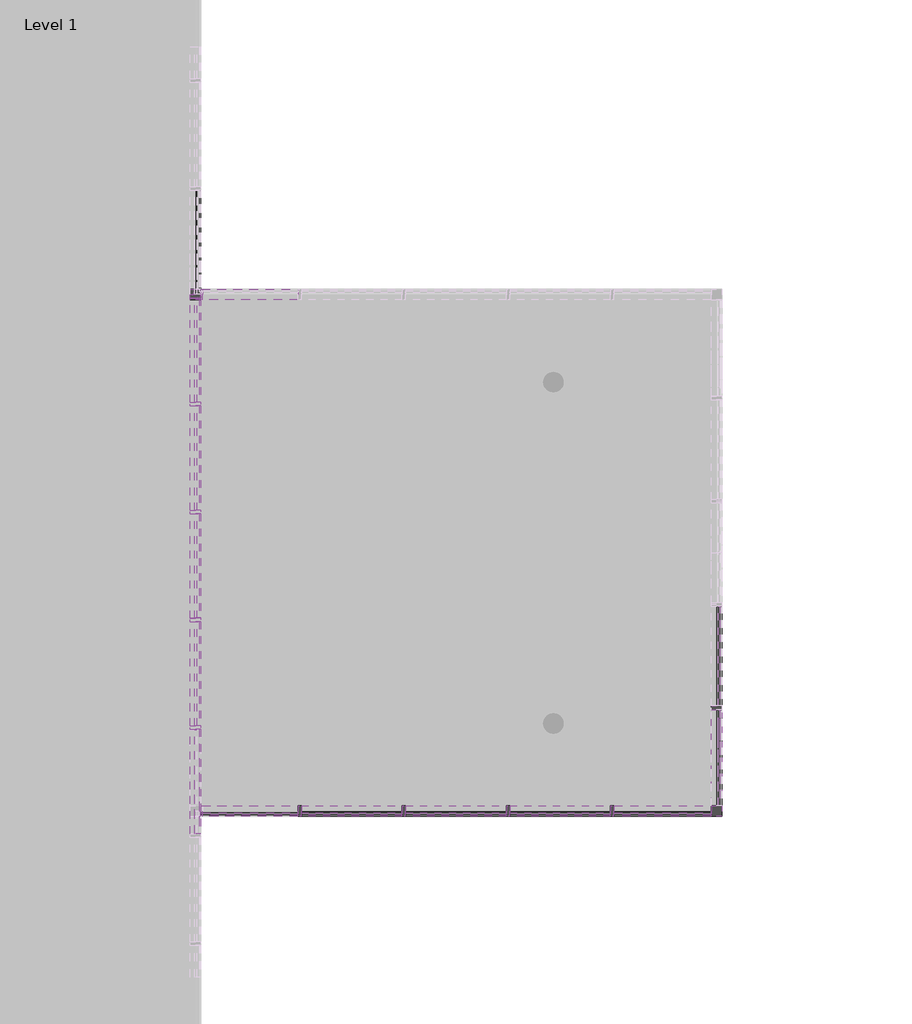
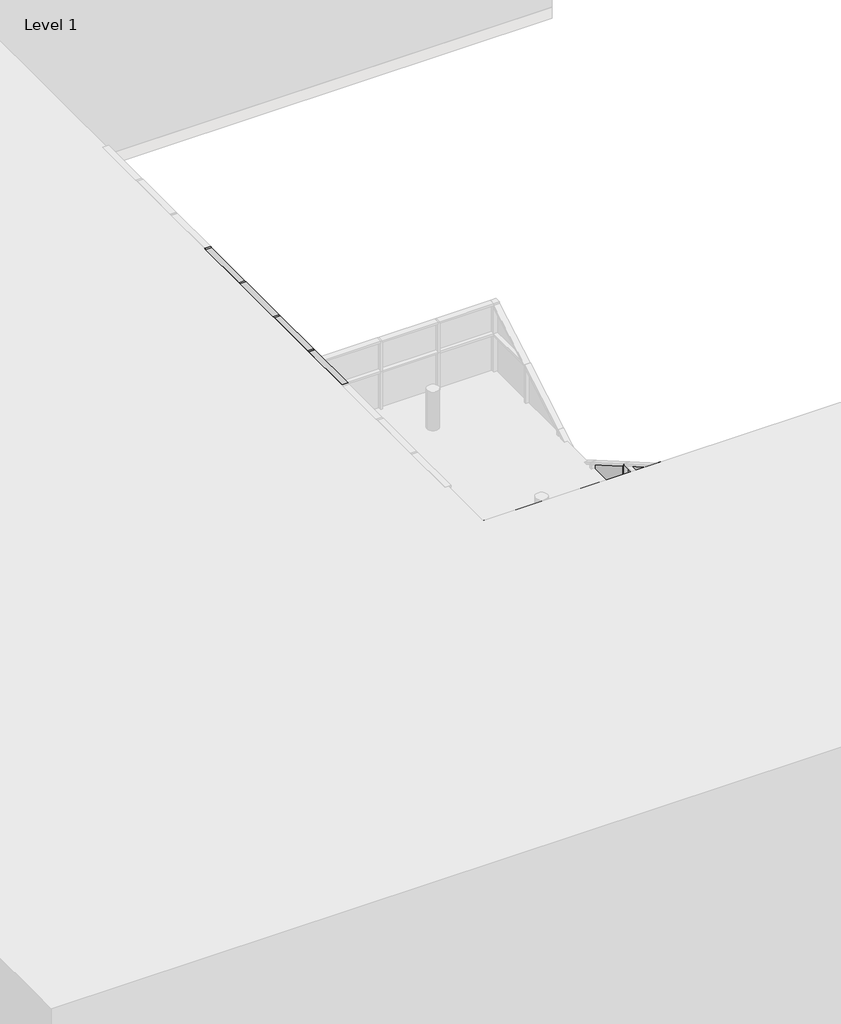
# One storey, part 3 of 27: 85 members, 38 plates.
"""IFC4 building model written with IfcOpenShell, lengths in millimetres."""

from ifc_helpers import new_model, si_unit, origin, place, context, project, spatial, transform, mapped, element, save
from components import quad_corner_mullion_quad_mullion_1_84add008, quad_corner_mullion_quad_mullion_1_33c9fb38, quad_corner_mullion_quad_mullion_1_4b298a92, quad_corner_mullion_quad_mullion_1_81362c20, quad_corner_mullion_quad_mullion_1_bceed214, quad_corner_mullion_quad_mullion_1_e3694288, rectangular_mullion_50mm_x_150mm_70cae3e1, rectangular_mullion_50mm_x_150mm_5226f6e8, rectangular_mullion_50mm_x_150mm_c839a2ff, rectangular_mullion_50mm_x_150mm_4fd86324, rectangular_mullion_50mm_x_150mm_6edb5cd3, rectangular_mullion_50mm_x_150mm_015f125c, rectangular_mullion_50mm_x_150mm_3bb547da, rectangular_mullion_50mm_x_150mm_487a502d, rectangular_mullion_50mm_x_150mm_33c77db3, rectangular_mullion_50mm_x_150mm_4273df98, rectangular_mullion_50mm_x_150mm_62159ae8, rectangular_mullion_50mm_x_150mm_bbc1c4ea, rectangular_mullion_50mm_x_150mm_84717ec5, rectangular_mullion_50mm_x_150mm_36202a7c, rectangular_mullion_50mm_x_150mm_1f94af64, rectangular_mullion_50mm_x_150mm_2daa7a2f, rectangular_mullion_50mm_x_150mm_ba376b5f, rectangular_mullion_50mm_x_150mm_79d6063e, rectangular_mullion_50mm_x_150mm_cb05066b, rectangular_mullion_50mm_x_150mm_f059afb6, system_panel_glazed_77cafc2b, system_panel_glazed_ed797616, system_panel_glazed_95eec517, system_panel_glazed_cdc57668, system_panel_glazed_979b1f5c, system_panel_glazed_f33d80e9, system_panel_glazed_bda8db77, system_panel_glazed_ac2502f9, system_panel_glazed_372dedf1, system_panel_glazed_d933175f, system_panel_glazed_53162424, system_panel_glazed_af97afc8, system_panel_glazed_789d0833, system_panel_glazed_280cad58, system_panel_solid_7338a288, system_panel_solid_0b170172, system_panel_solid_f97cb735

model = new_model("IFC4")

# Units and contexts
model_context = context("Model", 3, world=origin())
ifc_project = project(units=[si_unit("LENGTHUNIT", "METRE", prefix="MILLI")], contexts=[model_context])

# Site, building, storey
site = spatial("IfcSite", under=ifc_project)
building = spatial("IfcBuilding", under=site)
storey = spatial("IfcBuildingStorey", under=building, Name="Level 1", Elevation=0.0)

# Members
placement = place(None, origin())
quad_corner_mullion_quad_mullion_1_shape = quad_corner_mullion_quad_mullion_1_84add008(model_context)
element("IfcMember", 1, ObjectType="Quad Corner Mullion : Quad Mullion 1", at=placement, inside=storey, context=model_context, shape_type="MappedRepresentation", body=[
    mapped(quad_corner_mullion_quad_mullion_1_shape, transform((14709.0902051, -7283.8611817, 0.0), x_axis=(1.0, 0.0, 0.0), y_axis=(0.0, -1.0, 0.0), z_axis=(0.0, 0.0, -1.0))),
])
quad_corner_mullion_quad_mullion_1_2_shape = quad_corner_mullion_quad_mullion_1_33c9fb38(model_context)
element("IfcMember", 2, ObjectType="Quad Corner Mullion : Quad Mullion 1", at=placement, inside=storey, context=model_context, shape_type="MappedRepresentation", body=[
    mapped(quad_corner_mullion_quad_mullion_1_2_shape, transform((7497.0010724, -89.4607941, 6550.0), x_axis=(-1.0, 0.0, 0.0), y_axis=(0.0, 1.0, 0.0), z_axis=(0.0, 0.0, -1.0))),
])
quad_corner_mullion_quad_mullion_1_3_shape = quad_corner_mullion_quad_mullion_1_4b298a92(model_context)
element("IfcMember", 3, ObjectType="Quad Corner Mullion : Quad Mullion 1", at=placement, inside=storey, context=model_context, shape_type="MappedRepresentation", body=[
    mapped(quad_corner_mullion_quad_mullion_1_3_shape, transform((7497.0010724, -89.4607941, 7600.0), x_axis=(-1.0, 0.0, 0.0), y_axis=(0.0, 1.0, 0.0), z_axis=(0.0, 0.0, -1.0))),
])
element("IfcMember", 4, ObjectType="Quad Corner Mullion : Quad Mullion 1", at=placement, inside=storey, context=model_context, shape_type="MappedRepresentation", body=[
    mapped(quad_corner_mullion_quad_mullion_1_shape, transform((14709.0902051, -7283.8611817, 3800.0), x_axis=(1.0, 0.0, 0.0), y_axis=(0.0, -1.0, 0.0), z_axis=(0.0, 0.0, -1.0))),
])
quad_corner_mullion_quad_mullion_1_4_shape = quad_corner_mullion_quad_mullion_1_81362c20(model_context)
element("IfcMember", 5, ObjectType="Quad Corner Mullion : Quad Mullion 1", at=placement, inside=storey, context=model_context, shape_type="MappedRepresentation", body=[
    mapped(quad_corner_mullion_quad_mullion_1_4_shape, transform((14709.0902051, -7283.8611817, 7600.0), x_axis=(1.0, 0.0, 0.0), y_axis=(0.0, -1.0, 0.0), z_axis=(0.0, 0.0, -1.0))),
])
quad_corner_mullion_quad_mullion_1_5_shape = quad_corner_mullion_quad_mullion_1_bceed214(model_context)
element("IfcMember", 6, ObjectType="Quad Corner Mullion : Quad Mullion 1", at=placement, inside=storey, context=model_context, shape_type="MappedRepresentation", body=[
    mapped(quad_corner_mullion_quad_mullion_1_5_shape, transform((7447.5010724, -89.4607941, 0.0), x_axis=(-1.0, 0.0, 0.0), y_axis=(0.0, 1.0, 0.0), z_axis=(0.0, 0.0, -1.0))),
])
quad_corner_mullion_quad_mullion_1_6_shape = quad_corner_mullion_quad_mullion_1_e3694288(model_context)
element("IfcMember", 7, ObjectType="Quad Corner Mullion : Quad Mullion 1", at=placement, inside=storey, context=model_context, shape_type="MappedRepresentation", body=[
    mapped(quad_corner_mullion_quad_mullion_1_6_shape, transform((7447.5010724, -89.4607941, 3800.0), x_axis=(-1.0, 0.0, 0.0), y_axis=(0.0, 1.0, 0.0), z_axis=(0.0, 0.0, -1.0))),
])
rectangular_mullion_50mm_x_150mm_shape = rectangular_mullion_50mm_x_150mm_70cae3e1(model_context)
element("IfcMember", 8, ObjectType="Rectangular Mullion : 50mm x 150mm", at=placement, inside=storey, context=model_context, shape_type="MappedRepresentation", body=[
    mapped(rectangular_mullion_50mm_x_150mm_shape, transform((7447.5010724, -4646.1232893, 12400.0), x_axis=(0.0, 0.0, 1.0), y_axis=(1.0, 0.0, 0.0), z_axis=(0.0, 1.0, 0.0))),
])
element("IfcMember", 9, ObjectType="Rectangular Mullion : 50mm x 150mm", at=placement, inside=storey, context=model_context, shape_type="MappedRepresentation", body=[
    mapped(rectangular_mullion_50mm_x_150mm_shape, transform((7447.5010724, -3143.8756334, 12400.0), x_axis=(0.0, 0.0, 1.0), y_axis=(1.0, 0.0, 0.0), z_axis=(0.0, 1.0, 0.0))),
])
element("IfcMember", 10, ObjectType="Rectangular Mullion : 50mm x 150mm", at=placement, inside=storey, context=model_context, shape_type="MappedRepresentation", body=[
    mapped(rectangular_mullion_50mm_x_150mm_shape, transform((7447.5010724, -1641.6279774, 12400.0), x_axis=(0.0, 0.0, 1.0), y_axis=(1.0, 0.0, 0.0), z_axis=(0.0, 1.0, 0.0))),
])
element("IfcMember", 11, ObjectType="Rectangular Mullion : 50mm x 150mm", at=placement, inside=storey, context=model_context, shape_type="MappedRepresentation", body=[
    mapped(rectangular_mullion_50mm_x_150mm_shape, transform((7447.5010724, -139.3803215, 12400.0), x_axis=(0.0, 0.0, 1.0), y_axis=(1.0, 0.0, 0.0), z_axis=(0.0, 1.0, 0.0))),
])
element("IfcMember", 12, ObjectType="Rectangular Mullion : 50mm x 150mm", at=placement, inside=storey, context=model_context, shape_type="MappedRepresentation", body=[
    mapped(rectangular_mullion_50mm_x_150mm_shape, transform((7447.5010724, -6098.3709452, 6600.0), x_axis=(0.0, 0.0, -1.0), y_axis=(1.0, 0.0, 0.0), z_axis=(0.0, -1.0, 0.0))),
])
element("IfcMember", 13, ObjectType="Rectangular Mullion : 50mm x 150mm", at=placement, inside=storey, context=model_context, shape_type="MappedRepresentation", body=[
    mapped(rectangular_mullion_50mm_x_150mm_shape, transform((7447.5010724, -4596.1232893, 6600.0), x_axis=(0.0, 0.0, -1.0), y_axis=(1.0, 0.0, 0.0), z_axis=(0.0, -1.0, 0.0))),
])
element("IfcMember", 14, ObjectType="Rectangular Mullion : 50mm x 150mm", at=placement, inside=storey, context=model_context, shape_type="MappedRepresentation", body=[
    mapped(rectangular_mullion_50mm_x_150mm_shape, transform((7447.5010724, -3093.8756334, 6600.0), x_axis=(0.0, 0.0, -1.0), y_axis=(1.0, 0.0, 0.0), z_axis=(0.0, -1.0, 0.0))),
])
element("IfcMember", 15, ObjectType="Rectangular Mullion : 50mm x 150mm", at=placement, inside=storey, context=model_context, shape_type="MappedRepresentation", body=[
    mapped(rectangular_mullion_50mm_x_150mm_shape, transform((7447.5010724, -1591.6279774, 6600.0), x_axis=(0.0, 0.0, -1.0), y_axis=(1.0, 0.0, 0.0), z_axis=(0.0, -1.0, 0.0))),
])
rectangular_mullion_50mm_x_150mm_2_shape = rectangular_mullion_50mm_x_150mm_5226f6e8(model_context)
element("IfcMember", 16, ObjectType="Rectangular Mullion : 50mm x 150mm", at=placement, inside=storey, context=model_context, shape_type="MappedRepresentation", body=[
    mapped(rectangular_mullion_50mm_x_150mm_2_shape, transform((7447.5010724, -4646.1232893, 7600.0), x_axis=(0.0, 0.0, 1.0), y_axis=(1.0, 0.0, 0.0), z_axis=(0.0, 1.0, 0.0))),
])
element("IfcMember", 17, ObjectType="Rectangular Mullion : 50mm x 150mm", at=placement, inside=storey, context=model_context, shape_type="MappedRepresentation", body=[
    mapped(rectangular_mullion_50mm_x_150mm_2_shape, transform((7447.5010724, -3143.8756334, 7600.0), x_axis=(0.0, 0.0, 1.0), y_axis=(1.0, 0.0, 0.0), z_axis=(0.0, 1.0, 0.0))),
])
element("IfcMember", 18, ObjectType="Rectangular Mullion : 50mm x 150mm", at=placement, inside=storey, context=model_context, shape_type="MappedRepresentation", body=[
    mapped(rectangular_mullion_50mm_x_150mm_2_shape, transform((7447.5010724, -1641.6279774, 7600.0), x_axis=(0.0, 0.0, 1.0), y_axis=(1.0, 0.0, 0.0), z_axis=(0.0, 1.0, 0.0))),
])
element("IfcMember", 19, ObjectType="Rectangular Mullion : 50mm x 150mm", at=placement, inside=storey, context=model_context, shape_type="MappedRepresentation", body=[
    mapped(rectangular_mullion_50mm_x_150mm_2_shape, transform((7447.5010724, -139.3803215, 7600.0), x_axis=(0.0, 0.0, 1.0), y_axis=(1.0, 0.0, 0.0), z_axis=(0.0, 1.0, 0.0))),
])
element("IfcMember", 20, ObjectType="Rectangular Mullion : 50mm x 150mm", at=placement, inside=storey, context=model_context, shape_type="MappedRepresentation", body=[
    mapped(rectangular_mullion_50mm_x_150mm_2_shape, transform((7447.5010724, -4646.1232893, 11400.0), x_axis=(0.0, 0.0, 1.0), y_axis=(1.0, 0.0, 0.0), z_axis=(0.0, 1.0, 0.0))),
])
element("IfcMember", 21, ObjectType="Rectangular Mullion : 50mm x 150mm", at=placement, inside=storey, context=model_context, shape_type="MappedRepresentation", body=[
    mapped(rectangular_mullion_50mm_x_150mm_2_shape, transform((7447.5010724, -3143.8756334, 11400.0), x_axis=(0.0, 0.0, 1.0), y_axis=(1.0, 0.0, 0.0), z_axis=(0.0, 1.0, 0.0))),
])
element("IfcMember", 22, ObjectType="Rectangular Mullion : 50mm x 150mm", at=placement, inside=storey, context=model_context, shape_type="MappedRepresentation", body=[
    mapped(rectangular_mullion_50mm_x_150mm_2_shape, transform((7447.5010724, -1641.6279774, 11400.0), x_axis=(0.0, 0.0, 1.0), y_axis=(1.0, 0.0, 0.0), z_axis=(0.0, 1.0, 0.0))),
])
element("IfcMember", 23, ObjectType="Rectangular Mullion : 50mm x 150mm", at=placement, inside=storey, context=model_context, shape_type="MappedRepresentation", body=[
    mapped(rectangular_mullion_50mm_x_150mm_2_shape, transform((7447.5010724, -139.3803215, 11400.0), x_axis=(0.0, 0.0, 1.0), y_axis=(1.0, 0.0, 0.0), z_axis=(0.0, 1.0, 0.0))),
])
element("IfcMember", 24, ObjectType="Rectangular Mullion : 50mm x 150mm", at=placement, inside=storey, context=model_context, shape_type="MappedRepresentation", body=[
    mapped(rectangular_mullion_50mm_x_150mm_2_shape, transform((7447.5010724, -6148.3709452, 10040.0), x_axis=(0.0, 0.0, 1.0), y_axis=(1.0, 0.0, 0.0), z_axis=(0.0, 1.0, 0.0))),
])
element("IfcMember", 25, ObjectType="Rectangular Mullion : 50mm x 150mm", at=placement, inside=storey, context=model_context, shape_type="MappedRepresentation", body=[
    mapped(rectangular_mullion_50mm_x_150mm_2_shape, transform((7447.5010724, -4646.1232893, 10040.0), x_axis=(0.0, 0.0, 1.0), y_axis=(1.0, 0.0, 0.0), z_axis=(0.0, 1.0, 0.0))),
])
element("IfcMember", 26, ObjectType="Rectangular Mullion : 50mm x 150mm", at=placement, inside=storey, context=model_context, shape_type="MappedRepresentation", body=[
    mapped(rectangular_mullion_50mm_x_150mm_2_shape, transform((7447.5010724, -3143.8756334, 10040.0), x_axis=(0.0, 0.0, 1.0), y_axis=(1.0, 0.0, 0.0), z_axis=(0.0, 1.0, 0.0))),
])
element("IfcMember", 27, ObjectType="Rectangular Mullion : 50mm x 150mm", at=placement, inside=storey, context=model_context, shape_type="MappedRepresentation", body=[
    mapped(rectangular_mullion_50mm_x_150mm_2_shape, transform((7447.5010724, -1641.6279774, 10040.0), x_axis=(0.0, 0.0, 1.0), y_axis=(1.0, 0.0, 0.0), z_axis=(0.0, 1.0, 0.0))),
])
element("IfcMember", 28, ObjectType="Rectangular Mullion : 50mm x 150mm", at=placement, inside=storey, context=model_context, shape_type="MappedRepresentation", body=[
    mapped(rectangular_mullion_50mm_x_150mm_2_shape, transform((7447.5010724, -139.3803215, 10040.0), x_axis=(0.0, 0.0, 1.0), y_axis=(1.0, 0.0, 0.0), z_axis=(0.0, 1.0, 0.0))),
])
rectangular_mullion_50mm_x_150mm_3_shape = rectangular_mullion_50mm_x_150mm_c839a2ff(model_context)
element("IfcMember", 29, ObjectType="Rectangular Mullion : 50mm x 150mm", at=placement, inside=storey, context=model_context, shape_type="MappedRepresentation", body=[
    mapped(rectangular_mullion_50mm_x_150mm_3_shape, transform((7447.5010724, -14.4607941, 0.0), x_axis=(0.0, 0.0, -1.0), y_axis=(1.0, 0.0, 0.0), z_axis=(0.0, -1.0, 0.0))),
])
rectangular_mullion_50mm_x_150mm_4_shape = rectangular_mullion_50mm_x_150mm_4fd86324(model_context)
element("IfcMember", 30, ObjectType="Rectangular Mullion : 50mm x 150mm", at=placement, inside=storey, context=model_context, shape_type="MappedRepresentation", body=[
    mapped(rectangular_mullion_50mm_x_150mm_4_shape, transform((10327.1367255, -7283.8611817, 8424.5150656), x_axis=(0.0, 0.0, 1.0), y_axis=(0.0, -1.0, 0.0), z_axis=(1.0, 0.0, 0.0))),
])
element("IfcMember", 31, ObjectType="Rectangular Mullion : 50mm x 150mm", at=placement, inside=storey, context=model_context, shape_type="MappedRepresentation", body=[
    mapped(rectangular_mullion_50mm_x_150mm_4_shape, transform((11779.4545519, -7283.8611817, 8424.5150656), x_axis=(0.0, 0.0, 1.0), y_axis=(0.0, -1.0, 0.0), z_axis=(1.0, 0.0, 0.0))),
])
element("IfcMember", 32, ObjectType="Rectangular Mullion : 50mm x 150mm", at=placement, inside=storey, context=model_context, shape_type="MappedRepresentation", body=[
    mapped(rectangular_mullion_50mm_x_150mm_4_shape, transform((13231.7723783, -7283.8611817, 8424.5150656), x_axis=(0.0, 0.0, 1.0), y_axis=(0.0, -1.0, 0.0), z_axis=(1.0, 0.0, 0.0))),
])
element("IfcMember", 33, ObjectType="Rectangular Mullion : 50mm x 150mm", at=placement, inside=storey, context=model_context, shape_type="MappedRepresentation", body=[
    mapped(rectangular_mullion_50mm_x_150mm_4_shape, transform((8924.8188991, -7283.8611817, 0.0), x_axis=(0.0, 0.0, -1.0), y_axis=(0.0, -1.0, 0.0), z_axis=(-1.0, 0.0, 0.0))),
])
element("IfcMember", 34, ObjectType="Rectangular Mullion : 50mm x 150mm", at=placement, inside=storey, context=model_context, shape_type="MappedRepresentation", body=[
    mapped(rectangular_mullion_50mm_x_150mm_4_shape, transform((10377.1367255, -7283.8611817, 0.0), x_axis=(0.0, 0.0, -1.0), y_axis=(0.0, -1.0, 0.0), z_axis=(-1.0, 0.0, 0.0))),
])
element("IfcMember", 35, ObjectType="Rectangular Mullion : 50mm x 150mm", at=placement, inside=storey, context=model_context, shape_type="MappedRepresentation", body=[
    mapped(rectangular_mullion_50mm_x_150mm_4_shape, transform((11829.4545519, -7283.8611817, 0.0), x_axis=(0.0, 0.0, -1.0), y_axis=(0.0, -1.0, 0.0), z_axis=(-1.0, 0.0, 0.0))),
])
rectangular_mullion_50mm_x_150mm_5_shape = rectangular_mullion_50mm_x_150mm_6edb5cd3(model_context)
element("IfcMember", 36, ObjectType="Rectangular Mullion : 50mm x 150mm", at=placement, inside=storey, context=model_context, shape_type="MappedRepresentation", body=[
    mapped(rectangular_mullion_50mm_x_150mm_5_shape, transform((10327.1367255, -7283.8611817, 3800.0), x_axis=(0.0, 0.0, 1.0), y_axis=(0.0, -1.0, 0.0), z_axis=(1.0, 0.0, 0.0))),
])
element("IfcMember", 37, ObjectType="Rectangular Mullion : 50mm x 150mm", at=placement, inside=storey, context=model_context, shape_type="MappedRepresentation", body=[
    mapped(rectangular_mullion_50mm_x_150mm_5_shape, transform((11779.4545519, -7283.8611817, 3800.0), x_axis=(0.0, 0.0, 1.0), y_axis=(0.0, -1.0, 0.0), z_axis=(1.0, 0.0, 0.0))),
])
element("IfcMember", 38, ObjectType="Rectangular Mullion : 50mm x 150mm", at=placement, inside=storey, context=model_context, shape_type="MappedRepresentation", body=[
    mapped(rectangular_mullion_50mm_x_150mm_5_shape, transform((13231.7723783, -7283.8611817, 3800.0), x_axis=(0.0, 0.0, 1.0), y_axis=(0.0, -1.0, 0.0), z_axis=(1.0, 0.0, 0.0))),
])
element("IfcMember", 39, ObjectType="Rectangular Mullion : 50mm x 150mm", at=placement, inside=storey, context=model_context, shape_type="MappedRepresentation", body=[
    mapped(rectangular_mullion_50mm_x_150mm_5_shape, transform((10327.1367255, -7283.8611817, 7600.0), x_axis=(0.0, 0.0, 1.0), y_axis=(0.0, -1.0, 0.0), z_axis=(1.0, 0.0, 0.0))),
])
element("IfcMember", 40, ObjectType="Rectangular Mullion : 50mm x 150mm", at=placement, inside=storey, context=model_context, shape_type="MappedRepresentation", body=[
    mapped(rectangular_mullion_50mm_x_150mm_5_shape, transform((11779.4545519, -7283.8611817, 7600.0), x_axis=(0.0, 0.0, 1.0), y_axis=(0.0, -1.0, 0.0), z_axis=(1.0, 0.0, 0.0))),
])
element("IfcMember", 41, ObjectType="Rectangular Mullion : 50mm x 150mm", at=placement, inside=storey, context=model_context, shape_type="MappedRepresentation", body=[
    mapped(rectangular_mullion_50mm_x_150mm_5_shape, transform((13231.7723783, -7283.8611817, 7600.0), x_axis=(0.0, 0.0, 1.0), y_axis=(0.0, -1.0, 0.0), z_axis=(1.0, 0.0, 0.0))),
])
rectangular_mullion_50mm_x_150mm_6_shape = rectangular_mullion_50mm_x_150mm_015f125c(model_context)
element("IfcMember", 42, ObjectType="Rectangular Mullion : 50mm x 150mm", at=placement, inside=storey, context=model_context, shape_type="MappedRepresentation", body=[
    mapped(rectangular_mullion_50mm_x_150mm_6_shape, transform((14709.0902051, -5819.981104, 0.0), x_axis=(0.0, 0.0, -1.0), y_axis=(1.0, 0.0, 0.0), z_axis=(0.0, -1.0, 0.0))),
])
rectangular_mullion_50mm_x_150mm_7_shape = rectangular_mullion_50mm_x_150mm_3bb547da(model_context)
element("IfcMember", 43, ObjectType="Rectangular Mullion : 50mm x 150mm", at=placement, inside=storey, context=model_context, shape_type="MappedRepresentation", body=[
    mapped(rectangular_mullion_50mm_x_150mm_7_shape, transform((14634.0902051, -7283.8611817, 8424.5150656), x_axis=(0.0, 0.0, 1.0), y_axis=(0.0, -1.0, 0.0), z_axis=(1.0, 0.0, 0.0))),
])
element("IfcMember", 44, ObjectType="Rectangular Mullion : 50mm x 150mm", at=placement, inside=storey, context=model_context, shape_type="MappedRepresentation", body=[
    mapped(rectangular_mullion_50mm_x_150mm_7_shape, transform((13281.7723783, -7283.8611817, 0.0), x_axis=(0.0, 0.0, -1.0), y_axis=(0.0, -1.0, 0.0), z_axis=(-1.0, 0.0, 0.0))),
])
rectangular_mullion_50mm_x_150mm_8_shape = rectangular_mullion_50mm_x_150mm_487a502d(model_context)
element("IfcMember", 45, ObjectType="Rectangular Mullion : 50mm x 150mm", at=placement, inside=storey, context=model_context, shape_type="MappedRepresentation", body=[
    mapped(rectangular_mullion_50mm_x_150mm_8_shape, transform((7522.5010724, -89.4607941, 3800.0), x_axis=(0.0, 0.0, 1.0), y_axis=(0.0, 1.0, 0.0), z_axis=(-1.0, 0.0, 0.0))),
])
element("IfcMember", 46, ObjectType="Rectangular Mullion : 50mm x 150mm", at=placement, inside=storey, context=model_context, shape_type="MappedRepresentation", body=[
    mapped(rectangular_mullion_50mm_x_150mm_8_shape, transform((8874.8188991, -7283.8611817, 3800.0), x_axis=(0.0, 0.0, 1.0), y_axis=(0.0, -1.0, 0.0), z_axis=(1.0, 0.0, 0.0))),
])
element("IfcMember", 47, ObjectType="Rectangular Mullion : 50mm x 150mm", at=placement, inside=storey, context=model_context, shape_type="MappedRepresentation", body=[
    mapped(rectangular_mullion_50mm_x_150mm_8_shape, transform((14634.0902051, -7283.8611817, 3800.0), x_axis=(0.0, 0.0, 1.0), y_axis=(0.0, -1.0, 0.0), z_axis=(1.0, 0.0, 0.0))),
])
element("IfcMember", 48, ObjectType="Rectangular Mullion : 50mm x 150mm", at=placement, inside=storey, context=model_context, shape_type="MappedRepresentation", body=[
    mapped(rectangular_mullion_50mm_x_150mm_8_shape, transform((14634.0902051, -7283.8611817, 7600.0), x_axis=(0.0, 0.0, 1.0), y_axis=(0.0, -1.0, 0.0), z_axis=(1.0, 0.0, 0.0))),
])
rectangular_mullion_50mm_x_150mm_9_shape = rectangular_mullion_50mm_x_150mm_33c77db3(model_context)
element("IfcMember", 49, ObjectType="Rectangular Mullion : 50mm x 150mm", at=placement, inside=storey, context=model_context, shape_type="MappedRepresentation", body=[
    mapped(rectangular_mullion_50mm_x_150mm_9_shape, transform((14709.0902051, -7208.8611817, 0.0), x_axis=(0.0, 0.0, -1.0), y_axis=(1.0, 0.0, 0.0), z_axis=(0.0, -1.0, 0.0))),
])
rectangular_mullion_50mm_x_150mm_10_shape = rectangular_mullion_50mm_x_150mm_4273df98(model_context)
element("IfcMember", 50, ObjectType="Rectangular Mullion : 50mm x 150mm", at=placement, inside=storey, context=model_context, shape_type="MappedRepresentation", body=[
    mapped(rectangular_mullion_50mm_x_150mm_10_shape, transform((14709.0902051, -5869.981104, 3800.0), x_axis=(0.0, 0.0, 1.0), y_axis=(1.0, 0.0, 0.0), z_axis=(0.0, 1.0, 0.0))),
])
rectangular_mullion_50mm_x_150mm_11_shape = rectangular_mullion_50mm_x_150mm_62159ae8(model_context)
element("IfcMember", 51, ObjectType="Rectangular Mullion : 50mm x 150mm", at=placement, inside=storey, context=model_context, shape_type="MappedRepresentation", body=[
    mapped(rectangular_mullion_50mm_x_150mm_11_shape, transform((14709.0902051, -5844.981104, 0.0), x_axis=(0.0, 1.0, 0.0), y_axis=(1.0, 0.0, 0.0), z_axis=(0.0, 0.0, -1.0))),
])
element("IfcMember", 52, ObjectType="Rectangular Mullion : 50mm x 150mm", at=placement, inside=storey, context=model_context, shape_type="MappedRepresentation", body=[
    mapped(rectangular_mullion_50mm_x_150mm_11_shape, transform((8899.8188991, -7283.8611817, 0.0), x_axis=(1.0, 0.0, 0.0), y_axis=(0.0, -1.0, 0.0), z_axis=(0.0, 0.0, -1.0))),
])
element("IfcMember", 53, ObjectType="Rectangular Mullion : 50mm x 150mm", at=placement, inside=storey, context=model_context, shape_type="MappedRepresentation", body=[
    mapped(rectangular_mullion_50mm_x_150mm_11_shape, transform((10352.1367255, -7283.8611817, 0.0), x_axis=(1.0, 0.0, 0.0), y_axis=(0.0, -1.0, 0.0), z_axis=(0.0, 0.0, -1.0))),
])
element("IfcMember", 54, ObjectType="Rectangular Mullion : 50mm x 150mm", at=placement, inside=storey, context=model_context, shape_type="MappedRepresentation", body=[
    mapped(rectangular_mullion_50mm_x_150mm_11_shape, transform((11804.4545519, -7283.8611817, 0.0), x_axis=(1.0, 0.0, 0.0), y_axis=(0.0, -1.0, 0.0), z_axis=(0.0, 0.0, -1.0))),
])
element("IfcMember", 55, ObjectType="Rectangular Mullion : 50mm x 150mm", at=placement, inside=storey, context=model_context, shape_type="MappedRepresentation", body=[
    mapped(rectangular_mullion_50mm_x_150mm_11_shape, transform((13256.7723783, -7283.8611817, 0.0), x_axis=(1.0, 0.0, 0.0), y_axis=(0.0, -1.0, 0.0), z_axis=(0.0, 0.0, -1.0))),
])
rectangular_mullion_50mm_x_150mm_12_shape = rectangular_mullion_50mm_x_150mm_bbc1c4ea(model_context)
element("IfcMember", 56, ObjectType="Rectangular Mullion : 50mm x 150mm", at=placement, inside=storey, context=model_context, shape_type="MappedRepresentation", body=[
    mapped(rectangular_mullion_50mm_x_150mm_12_shape, transform((7447.5010724, -4621.1232893, 11400.0), x_axis=(0.0, 1.0, 0.0), y_axis=(1.0, 0.0, 0.0), z_axis=(0.0, 0.0, -1.0))),
])
element("IfcMember", 57, ObjectType="Rectangular Mullion : 50mm x 150mm", at=placement, inside=storey, context=model_context, shape_type="MappedRepresentation", body=[
    mapped(rectangular_mullion_50mm_x_150mm_12_shape, transform((7447.5010724, -3118.8756334, 11400.0), x_axis=(0.0, 1.0, 0.0), y_axis=(1.0, 0.0, 0.0), z_axis=(0.0, 0.0, -1.0))),
])
element("IfcMember", 58, ObjectType="Rectangular Mullion : 50mm x 150mm", at=placement, inside=storey, context=model_context, shape_type="MappedRepresentation", body=[
    mapped(rectangular_mullion_50mm_x_150mm_12_shape, transform((7447.5010724, -1616.6279774, 11400.0), x_axis=(0.0, 1.0, 0.0), y_axis=(1.0, 0.0, 0.0), z_axis=(0.0, 0.0, -1.0))),
])
element("IfcMember", 59, ObjectType="Rectangular Mullion : 50mm x 150mm", at=placement, inside=storey, context=model_context, shape_type="MappedRepresentation", body=[
    mapped(rectangular_mullion_50mm_x_150mm_12_shape, transform((7447.5010724, -114.3803215, 11400.0), x_axis=(0.0, 1.0, 0.0), y_axis=(1.0, 0.0, 0.0), z_axis=(0.0, 0.0, -1.0))),
])
rectangular_mullion_50mm_x_150mm_13_shape = rectangular_mullion_50mm_x_150mm_84717ec5(model_context)
element("IfcMember", 60, ObjectType="Rectangular Mullion : 50mm x 150mm", at=placement, inside=storey, context=model_context, shape_type="MappedRepresentation", body=[
    mapped(rectangular_mullion_50mm_x_150mm_13_shape, transform((7447.5010724, -6123.3709452, 10040.0), x_axis=(0.0, 1.0, 0.0), y_axis=(1.0, 0.0, 0.0), z_axis=(0.0, 0.0, -1.0))),
])
element("IfcMember", 61, ObjectType="Rectangular Mullion : 50mm x 150mm", at=placement, inside=storey, context=model_context, shape_type="MappedRepresentation", body=[
    mapped(rectangular_mullion_50mm_x_150mm_13_shape, transform((7447.5010724, -4621.1232893, 10040.0), x_axis=(0.0, 1.0, 0.0), y_axis=(1.0, 0.0, 0.0), z_axis=(0.0, 0.0, -1.0))),
])
element("IfcMember", 62, ObjectType="Rectangular Mullion : 50mm x 150mm", at=placement, inside=storey, context=model_context, shape_type="MappedRepresentation", body=[
    mapped(rectangular_mullion_50mm_x_150mm_13_shape, transform((7447.5010724, -3118.8756334, 10040.0), x_axis=(0.0, 1.0, 0.0), y_axis=(1.0, 0.0, 0.0), z_axis=(0.0, 0.0, -1.0))),
])
element("IfcMember", 63, ObjectType="Rectangular Mullion : 50mm x 150mm", at=placement, inside=storey, context=model_context, shape_type="MappedRepresentation", body=[
    mapped(rectangular_mullion_50mm_x_150mm_13_shape, transform((7447.5010724, -1616.6279774, 10040.0), x_axis=(0.0, 1.0, 0.0), y_axis=(1.0, 0.0, 0.0), z_axis=(0.0, 0.0, -1.0))),
])
element("IfcMember", 64, ObjectType="Rectangular Mullion : 50mm x 150mm", at=placement, inside=storey, context=model_context, shape_type="MappedRepresentation", body=[
    mapped(rectangular_mullion_50mm_x_150mm_13_shape, transform((7447.5010724, -114.3803215, 10040.0), x_axis=(0.0, 1.0, 0.0), y_axis=(1.0, 0.0, 0.0), z_axis=(0.0, 0.0, -1.0))),
])
rectangular_mullion_50mm_x_150mm_14_shape = rectangular_mullion_50mm_x_150mm_36202a7c(model_context)
element("IfcMember", 65, ObjectType="Rectangular Mullion : 50mm x 150mm", at=placement, inside=storey, context=model_context, shape_type="MappedRepresentation", body=[
    mapped(rectangular_mullion_50mm_x_150mm_14_shape, transform((7447.5010724, -4621.1232893, 7600.0), x_axis=(0.0, 1.0, 0.0), y_axis=(1.0, 0.0, 0.0), z_axis=(0.0, 0.0, -1.0))),
])
element("IfcMember", 66, ObjectType="Rectangular Mullion : 50mm x 150mm", at=placement, inside=storey, context=model_context, shape_type="MappedRepresentation", body=[
    mapped(rectangular_mullion_50mm_x_150mm_14_shape, transform((7447.5010724, -3118.8756334, 7600.0), x_axis=(0.0, 1.0, 0.0), y_axis=(1.0, 0.0, 0.0), z_axis=(0.0, 0.0, -1.0))),
])
element("IfcMember", 67, ObjectType="Rectangular Mullion : 50mm x 150mm", at=placement, inside=storey, context=model_context, shape_type="MappedRepresentation", body=[
    mapped(rectangular_mullion_50mm_x_150mm_14_shape, transform((7447.5010724, -1616.6279774, 7600.0), x_axis=(0.0, 1.0, 0.0), y_axis=(1.0, 0.0, 0.0), z_axis=(0.0, 0.0, -1.0))),
])
element("IfcMember", 68, ObjectType="Rectangular Mullion : 50mm x 150mm", at=placement, inside=storey, context=model_context, shape_type="MappedRepresentation", body=[
    mapped(rectangular_mullion_50mm_x_150mm_14_shape, transform((7447.5010724, -114.3803215, 7600.0), x_axis=(0.0, 1.0, 0.0), y_axis=(1.0, 0.0, 0.0), z_axis=(0.0, 0.0, -1.0))),
])
element("IfcMember", 69, ObjectType="Rectangular Mullion : 50mm x 150mm", at=placement, inside=storey, context=model_context, shape_type="MappedRepresentation", body=[
    mapped(rectangular_mullion_50mm_x_150mm_12_shape, transform((7447.5010724, -4621.1232893, 6600.0), x_axis=(0.0, 1.0, 0.0), y_axis=(1.0, 0.0, 0.0), z_axis=(0.0, 0.0, -1.0))),
])
element("IfcMember", 70, ObjectType="Rectangular Mullion : 50mm x 150mm", at=placement, inside=storey, context=model_context, shape_type="MappedRepresentation", body=[
    mapped(rectangular_mullion_50mm_x_150mm_12_shape, transform((7447.5010724, -3118.8756334, 6600.0), x_axis=(0.0, 1.0, 0.0), y_axis=(1.0, 0.0, 0.0), z_axis=(0.0, 0.0, -1.0))),
])
element("IfcMember", 71, ObjectType="Rectangular Mullion : 50mm x 150mm", at=placement, inside=storey, context=model_context, shape_type="MappedRepresentation", body=[
    mapped(rectangular_mullion_50mm_x_150mm_12_shape, transform((7447.5010724, -1616.6279774, 6600.0), x_axis=(0.0, 1.0, 0.0), y_axis=(1.0, 0.0, 0.0), z_axis=(0.0, 0.0, -1.0))),
])
element("IfcMember", 72, ObjectType="Rectangular Mullion : 50mm x 150mm", at=placement, inside=storey, context=model_context, shape_type="MappedRepresentation", body=[
    mapped(rectangular_mullion_50mm_x_150mm_12_shape, transform((7447.5010724, -114.3803215, 6600.0), x_axis=(0.0, 1.0, 0.0), y_axis=(1.0, 0.0, 0.0), z_axis=(0.0, 0.0, -1.0))),
])
element("IfcMember", 73, ObjectType="Rectangular Mullion : 50mm x 150mm", at=placement, inside=storey, context=model_context, shape_type="MappedRepresentation", body=[
    mapped(rectangular_mullion_50mm_x_150mm_11_shape, transform((8899.8188991, -7283.8611817, 3800.0), x_axis=(1.0, 0.0, 0.0), y_axis=(0.0, -1.0, 0.0), z_axis=(0.0, 0.0, -1.0))),
])
element("IfcMember", 74, ObjectType="Rectangular Mullion : 50mm x 150mm", at=placement, inside=storey, context=model_context, shape_type="MappedRepresentation", body=[
    mapped(rectangular_mullion_50mm_x_150mm_11_shape, transform((10352.1367255, -7283.8611817, 3800.0), x_axis=(1.0, 0.0, 0.0), y_axis=(0.0, -1.0, 0.0), z_axis=(0.0, 0.0, -1.0))),
])
element("IfcMember", 75, ObjectType="Rectangular Mullion : 50mm x 150mm", at=placement, inside=storey, context=model_context, shape_type="MappedRepresentation", body=[
    mapped(rectangular_mullion_50mm_x_150mm_11_shape, transform((11804.4545519, -7283.8611817, 3800.0), x_axis=(1.0, 0.0, 0.0), y_axis=(0.0, -1.0, 0.0), z_axis=(0.0, 0.0, -1.0))),
])
element("IfcMember", 76, ObjectType="Rectangular Mullion : 50mm x 150mm", at=placement, inside=storey, context=model_context, shape_type="MappedRepresentation", body=[
    mapped(rectangular_mullion_50mm_x_150mm_11_shape, transform((13256.7723783, -7283.8611817, 3800.0), x_axis=(1.0, 0.0, 0.0), y_axis=(0.0, -1.0, 0.0), z_axis=(0.0, 0.0, -1.0))),
])
rectangular_mullion_50mm_x_150mm_15_shape = rectangular_mullion_50mm_x_150mm_1f94af64(model_context)
element("IfcMember", 77, ObjectType="Rectangular Mullion : 50mm x 150mm", at=placement, inside=storey, context=model_context, shape_type="MappedRepresentation", body=[
    mapped(rectangular_mullion_50mm_x_150mm_15_shape, transform((7545.1580186, -89.4607941, 8424.5150656), x_axis=(0.0, 0.0, 1.0), y_axis=(0.0, 1.0, 0.0), z_axis=(-1.0, 0.0, 0.0))),
])
rectangular_mullion_50mm_x_150mm_16_shape = rectangular_mullion_50mm_x_150mm_2daa7a2f(model_context)
element("IfcMember", 78, ObjectType="Rectangular Mullion : 50mm x 150mm", at=placement, inside=storey, context=model_context, shape_type="MappedRepresentation", body=[
    mapped(rectangular_mullion_50mm_x_150mm_16_shape, transform((8899.8188991, -7283.8611817, 7600.0), x_axis=(1.0, 0.0, 0.0), y_axis=(0.0, -1.0, 0.0), z_axis=(0.0, 0.0, -1.0))),
])
element("IfcMember", 79, ObjectType="Rectangular Mullion : 50mm x 150mm", at=placement, inside=storey, context=model_context, shape_type="MappedRepresentation", body=[
    mapped(rectangular_mullion_50mm_x_150mm_16_shape, transform((10352.1367255, -7283.8611817, 7600.0), x_axis=(1.0, 0.0, 0.0), y_axis=(0.0, -1.0, 0.0), z_axis=(0.0, 0.0, -1.0))),
])
element("IfcMember", 80, ObjectType="Rectangular Mullion : 50mm x 150mm", at=placement, inside=storey, context=model_context, shape_type="MappedRepresentation", body=[
    mapped(rectangular_mullion_50mm_x_150mm_16_shape, transform((11804.4545519, -7283.8611817, 7600.0), x_axis=(1.0, 0.0, 0.0), y_axis=(0.0, -1.0, 0.0), z_axis=(0.0, 0.0, -1.0))),
])
element("IfcMember", 81, ObjectType="Rectangular Mullion : 50mm x 150mm", at=placement, inside=storey, context=model_context, shape_type="MappedRepresentation", body=[
    mapped(rectangular_mullion_50mm_x_150mm_16_shape, transform((13256.7723783, -7283.8611817, 7600.0), x_axis=(1.0, 0.0, 0.0), y_axis=(0.0, -1.0, 0.0), z_axis=(0.0, 0.0, -1.0))),
])
rectangular_mullion_50mm_x_150mm_17_shape = rectangular_mullion_50mm_x_150mm_ba376b5f(model_context)
element("IfcMember", 82, ObjectType="Rectangular Mullion : 50mm x 150mm", at=placement, inside=storey, context=model_context, shape_type="MappedRepresentation", body=[
    mapped(rectangular_mullion_50mm_x_150mm_17_shape, transform((7545.1580186, -89.4607941, 7600.0), x_axis=(0.0, 0.0, 1.0), y_axis=(0.0, 1.0, 0.0), z_axis=(-1.0, 0.0, 0.0))),
])
rectangular_mullion_50mm_x_150mm_18_shape = rectangular_mullion_50mm_x_150mm_79d6063e(model_context)
element("IfcMember", 83, ObjectType="Rectangular Mullion : 50mm x 150mm", at=placement, inside=storey, context=model_context, shape_type="MappedRepresentation", body=[
    mapped(rectangular_mullion_50mm_x_150mm_18_shape, transform((14709.0902051, -5844.981104, 3800.0), x_axis=(0.0, 1.0, 0.0), y_axis=(1.0, 0.0, 0.0), z_axis=(0.0, 0.0, -1.0))),
])
rectangular_mullion_50mm_x_150mm_19_shape = rectangular_mullion_50mm_x_150mm_cb05066b(model_context)
element("IfcMember", 84, ObjectType="Rectangular Mullion : 50mm x 150mm", at=placement, inside=storey, context=model_context, shape_type="MappedRepresentation", body=[
    mapped(rectangular_mullion_50mm_x_150mm_19_shape, transform((8874.8188991, -7283.8611817, 8424.5150656), x_axis=(0.0, 0.0, 1.0), y_axis=(0.0, -1.0, 0.0), z_axis=(1.0, 0.0, 0.0))),
])
rectangular_mullion_50mm_x_150mm_20_shape = rectangular_mullion_50mm_x_150mm_f059afb6(model_context)
element("IfcMember", 85, ObjectType="Rectangular Mullion : 50mm x 150mm", at=placement, inside=storey, context=model_context, shape_type="MappedRepresentation", body=[
    mapped(rectangular_mullion_50mm_x_150mm_20_shape, transform((8874.8188991, -7283.8611817, 7600.0), x_axis=(0.0, 0.0, 1.0), y_axis=(0.0, -1.0, 0.0), z_axis=(1.0, 0.0, 0.0))),
])

# Plates
system_panel_glazed_shape = system_panel_glazed_77cafc2b(model_context)
element("IfcPlate", 86, ObjectType="System Panel : Glazed", at=placement, inside=storey, context=model_context, shape_type="MappedRepresentation", body=[
    mapped(system_panel_glazed_shape, transform((8198.6599857, -7283.8611817, 50.0), x_axis=(1.0, 0.0, 0.0), y_axis=(0.0, 1.0, 0.0), z_axis=(0.0, 0.0, 1.0))),
])
element("IfcPlate", 87, ObjectType="System Panel : Glazed", at=placement, inside=storey, context=model_context, shape_type="MappedRepresentation", body=[
    mapped(system_panel_glazed_shape, transform((13957.9312917, -7283.8611817, 50.0), x_axis=(1.0, 0.0, 0.0), y_axis=(0.0, 1.0, 0.0), z_axis=(0.0, 0.0, 1.0))),
])
system_panel_glazed_2_shape = system_panel_glazed_ed797616(model_context)
element("IfcPlate", 88, ObjectType="System Panel : Glazed", at=placement, inside=storey, context=model_context, shape_type="MappedRepresentation", body=[
    mapped(system_panel_glazed_2_shape, transform((14709.0902051, -6539.4211428, 50.0), x_axis=(0.0, 1.0, 0.0), y_axis=(-1.0, 0.0, 0.0), z_axis=(0.0, 0.0, 1.0))),
])
system_panel_glazed_3_shape = system_panel_glazed_95eec517(model_context)
element("IfcPlate", 89, ObjectType="System Panel : Glazed", at=placement, inside=storey, context=model_context, shape_type="MappedRepresentation", body=[
    mapped(system_panel_glazed_3_shape, transform((9625.9778123, -7283.8611817, 50.0), x_axis=(1.0, 0.0, 0.0), y_axis=(0.0, 1.0, 0.0), z_axis=(0.0, 0.0, 1.0))),
])
element("IfcPlate", 90, ObjectType="System Panel : Glazed", at=placement, inside=storey, context=model_context, shape_type="MappedRepresentation", body=[
    mapped(system_panel_glazed_3_shape, transform((11078.2956387, -7283.8611817, 50.0), x_axis=(1.0, 0.0, 0.0), y_axis=(0.0, 1.0, 0.0), z_axis=(0.0, 0.0, 1.0))),
])
element("IfcPlate", 91, ObjectType="System Panel : Glazed", at=placement, inside=storey, context=model_context, shape_type="MappedRepresentation", body=[
    mapped(system_panel_glazed_3_shape, transform((12530.6134651, -7283.8611817, 50.0), x_axis=(1.0, 0.0, 0.0), y_axis=(0.0, 1.0, 0.0), z_axis=(0.0, 0.0, 1.0))),
])
system_panel_glazed_4_shape = system_panel_glazed_cdc57668(model_context)
element("IfcPlate", 92, ObjectType="System Panel : Glazed", at=placement, inside=storey, context=model_context, shape_type="MappedRepresentation", body=[
    mapped(system_panel_glazed_4_shape, transform((14709.0902051, -5125.5410653, 50.0), x_axis=(0.0, 1.0, 0.0), y_axis=(-1.0, 0.0, 0.0), z_axis=(0.0, 0.0, 1.0))),
])
system_panel_glazed_5_shape = system_panel_glazed_979b1f5c(model_context)
element("IfcPlate", 93, ObjectType="System Panel : Glazed", at=placement, inside=storey, context=model_context, shape_type="MappedRepresentation", body=[
    mapped(system_panel_glazed_5_shape, transform((7447.5010724, -5372.2471173, 7625.0), x_axis=(0.0, 1.0, 0.0), y_axis=(-1.0, 0.0, 0.0), z_axis=(0.0, 0.0, 1.0))),
])
element("IfcPlate", 94, ObjectType="System Panel : Glazed", at=placement, inside=storey, context=model_context, shape_type="MappedRepresentation", body=[
    mapped(system_panel_glazed_5_shape, transform((7447.5010724, -3869.9994613, 7625.0), x_axis=(0.0, 1.0, 0.0), y_axis=(-1.0, 0.0, 0.0), z_axis=(0.0, 0.0, 1.0))),
])
element("IfcPlate", 95, ObjectType="System Panel : Glazed", at=placement, inside=storey, context=model_context, shape_type="MappedRepresentation", body=[
    mapped(system_panel_glazed_5_shape, transform((7447.5010724, -2367.7518054, 7625.0), x_axis=(0.0, 1.0, 0.0), y_axis=(-1.0, 0.0, 0.0), z_axis=(0.0, 0.0, 1.0))),
])
element("IfcPlate", 96, ObjectType="System Panel : Glazed", at=placement, inside=storey, context=model_context, shape_type="MappedRepresentation", body=[
    mapped(system_panel_glazed_5_shape, transform((7447.5010724, -865.5041495, 7625.0), x_axis=(0.0, 1.0, 0.0), y_axis=(-1.0, 0.0, 0.0), z_axis=(0.0, 0.0, 1.0))),
])
system_panel_glazed_6_shape = system_panel_glazed_f33d80e9(model_context)
element("IfcPlate", 97, ObjectType="System Panel : Glazed", at=placement, inside=storey, context=model_context, shape_type="MappedRepresentation", body=[
    mapped(system_panel_glazed_6_shape, transform((14709.0902051, -5125.5410653, 3825.0), x_axis=(0.0, 1.0, 0.0), y_axis=(-1.0, 0.0, 0.0), z_axis=(0.0, 0.0, 1.0))),
])
system_panel_glazed_7_shape = system_panel_glazed_bda8db77(model_context)
element("IfcPlate", 98, ObjectType="System Panel : Glazed", at=placement, inside=storey, context=model_context, shape_type="MappedRepresentation", body=[
    mapped(system_panel_glazed_7_shape, transform((9625.9778123, -7283.8611817, 3825.0), x_axis=(1.0, 0.0, 0.0), y_axis=(0.0, 1.0, 0.0), z_axis=(0.0, 0.0, 1.0))),
])
element("IfcPlate", 99, ObjectType="System Panel : Glazed", at=placement, inside=storey, context=model_context, shape_type="MappedRepresentation", body=[
    mapped(system_panel_glazed_7_shape, transform((11078.2956387, -7283.8611817, 3825.0), x_axis=(1.0, 0.0, 0.0), y_axis=(0.0, 1.0, 0.0), z_axis=(0.0, 0.0, 1.0))),
])
element("IfcPlate", 100, ObjectType="System Panel : Glazed", at=placement, inside=storey, context=model_context, shape_type="MappedRepresentation", body=[
    mapped(system_panel_glazed_7_shape, transform((12530.6134651, -7283.8611817, 3825.0), x_axis=(1.0, 0.0, 0.0), y_axis=(0.0, 1.0, 0.0), z_axis=(0.0, 0.0, 1.0))),
])
system_panel_glazed_8_shape = system_panel_glazed_ac2502f9(model_context)
element("IfcPlate", 101, ObjectType="System Panel : Glazed", at=placement, inside=storey, context=model_context, shape_type="MappedRepresentation", body=[
    mapped(system_panel_glazed_8_shape, transform((14709.0902051, -6539.4211428, 3825.0), x_axis=(0.0, 1.0, 0.0), y_axis=(-1.0, 0.0, 0.0), z_axis=(0.0, 0.0, 1.0))),
])
system_panel_glazed_9_shape = system_panel_glazed_372dedf1(model_context)
element("IfcPlate", 102, ObjectType="System Panel : Glazed", at=placement, inside=storey, context=model_context, shape_type="MappedRepresentation", body=[
    mapped(system_panel_glazed_9_shape, transform((13957.9312917, -7283.8611817, 3825.0), x_axis=(1.0, 0.0, 0.0), y_axis=(0.0, 1.0, 0.0), z_axis=(0.0, 0.0, 1.0))),
])
system_panel_glazed_10_shape = system_panel_glazed_d933175f(model_context)
element("IfcPlate", 103, ObjectType="System Panel : Glazed", at=placement, inside=storey, context=model_context, shape_type="MappedRepresentation", body=[
    mapped(system_panel_glazed_10_shape, transform((9625.9778123, -7283.8611817, 7625.0), x_axis=(1.0, 0.0, 0.0), y_axis=(0.0, 1.0, 0.0), z_axis=(0.0, 0.0, 1.0))),
])
element("IfcPlate", 104, ObjectType="System Panel : Glazed", at=placement, inside=storey, context=model_context, shape_type="MappedRepresentation", body=[
    mapped(system_panel_glazed_10_shape, transform((11078.2956387, -7283.8611817, 7625.0), x_axis=(1.0, 0.0, 0.0), y_axis=(0.0, 1.0, 0.0), z_axis=(0.0, 0.0, 1.0))),
])
element("IfcPlate", 105, ObjectType="System Panel : Glazed", at=placement, inside=storey, context=model_context, shape_type="MappedRepresentation", body=[
    mapped(system_panel_glazed_10_shape, transform((12530.6134651, -7283.8611817, 7625.0), x_axis=(1.0, 0.0, 0.0), y_axis=(0.0, 1.0, 0.0), z_axis=(0.0, 0.0, 1.0))),
])
system_panel_glazed_11_shape = system_panel_glazed_53162424(model_context)
element("IfcPlate", 106, ObjectType="System Panel : Glazed", at=placement, inside=storey, context=model_context, shape_type="MappedRepresentation", body=[
    mapped(system_panel_glazed_11_shape, transform((8210.9099857, -7283.8611817, 7625.0), x_axis=(1.0, 0.0, 0.0), y_axis=(0.0, 1.0, 0.0), z_axis=(0.0, 0.0, 1.0))),
])
system_panel_glazed_12_shape = system_panel_glazed_af97afc8(model_context)
element("IfcPlate", 107, ObjectType="System Panel : Glazed", at=placement, inside=storey, context=model_context, shape_type="MappedRepresentation", body=[
    mapped(system_panel_glazed_12_shape, transform((13957.9312917, -7283.8611817, 7625.0), x_axis=(1.0, 0.0, 0.0), y_axis=(0.0, 1.0, 0.0), z_axis=(0.0, 0.0, 1.0))),
])
system_panel_glazed_13_shape = system_panel_glazed_789d0833(model_context)
element("IfcPlate", 108, ObjectType="System Panel : Glazed", at=placement, inside=storey, context=model_context, shape_type="MappedRepresentation", body=[
    mapped(system_panel_glazed_13_shape, transform((14709.0902051, -6603.9608242, 7625.0), x_axis=(0.0, 1.0, 0.0), y_axis=(-1.0, 0.0, 0.0), z_axis=(0.0, 0.0, 1.0))),
])
system_panel_glazed_14_shape = system_panel_glazed_280cad58(model_context)
element("IfcPlate", 109, ObjectType="System Panel : Glazed", at=placement, inside=storey, context=model_context, shape_type="MappedRepresentation", body=[
    mapped(system_panel_glazed_14_shape, transform((8198.6599857, -7283.8611817, 3825.0), x_axis=(1.0, 0.0, 0.0), y_axis=(0.0, 1.0, 0.0), z_axis=(0.0, 0.0, 1.0))),
])
system_panel_solid_shape = system_panel_solid_7338a288(model_context)
element("IfcPlate", 110, ObjectType="System Panel : Solid", at=placement, inside=storey, context=model_context, shape_type="MappedRepresentation", body=[
    mapped(system_panel_solid_shape, transform((7447.5010724, -5372.2471173, 11425.0), x_axis=(0.0, 1.0, 0.0), y_axis=(-1.0, 0.0, 0.0), z_axis=(0.0, 0.0, 1.0))),
])
element("IfcPlate", 111, ObjectType="System Panel : Solid", at=placement, inside=storey, context=model_context, shape_type="MappedRepresentation", body=[
    mapped(system_panel_solid_shape, transform((7447.5010724, -3869.9994613, 11425.0), x_axis=(0.0, 1.0, 0.0), y_axis=(-1.0, 0.0, 0.0), z_axis=(0.0, 0.0, 1.0))),
])
element("IfcPlate", 112, ObjectType="System Panel : Solid", at=placement, inside=storey, context=model_context, shape_type="MappedRepresentation", body=[
    mapped(system_panel_solid_shape, transform((7447.5010724, -2367.7518054, 11425.0), x_axis=(0.0, 1.0, 0.0), y_axis=(-1.0, 0.0, 0.0), z_axis=(0.0, 0.0, 1.0))),
])
element("IfcPlate", 113, ObjectType="System Panel : Solid", at=placement, inside=storey, context=model_context, shape_type="MappedRepresentation", body=[
    mapped(system_panel_solid_shape, transform((7447.5010724, -865.5041495, 11425.0), x_axis=(0.0, 1.0, 0.0), y_axis=(-1.0, 0.0, 0.0), z_axis=(0.0, 0.0, 1.0))),
])
element("IfcPlate", 114, ObjectType="System Panel : Solid", at=placement, inside=storey, context=model_context, shape_type="MappedRepresentation", body=[
    mapped(system_panel_solid_shape, transform((7447.5010724, -5372.2471173, 6650.0), x_axis=(0.0, 1.0, 0.0), y_axis=(-1.0, 0.0, 0.0), z_axis=(0.0, 0.0, 1.0))),
])
element("IfcPlate", 115, ObjectType="System Panel : Solid", at=placement, inside=storey, context=model_context, shape_type="MappedRepresentation", body=[
    mapped(system_panel_solid_shape, transform((7447.5010724, -3869.9994613, 6650.0), x_axis=(0.0, 1.0, 0.0), y_axis=(-1.0, 0.0, 0.0), z_axis=(0.0, 0.0, 1.0))),
])
element("IfcPlate", 116, ObjectType="System Panel : Solid", at=placement, inside=storey, context=model_context, shape_type="MappedRepresentation", body=[
    mapped(system_panel_solid_shape, transform((7447.5010724, -2367.7518054, 6650.0), x_axis=(0.0, 1.0, 0.0), y_axis=(-1.0, 0.0, 0.0), z_axis=(0.0, 0.0, 1.0))),
])
element("IfcPlate", 117, ObjectType="System Panel : Solid", at=placement, inside=storey, context=model_context, shape_type="MappedRepresentation", body=[
    mapped(system_panel_solid_shape, transform((7447.5010724, -865.5041495, 6650.0), x_axis=(0.0, 1.0, 0.0), y_axis=(-1.0, 0.0, 0.0), z_axis=(0.0, 0.0, 1.0))),
])
system_panel_solid_2_shape = system_panel_solid_0b170172(model_context)
element("IfcPlate", 118, ObjectType="System Panel : Solid", at=placement, inside=storey, context=model_context, shape_type="MappedRepresentation", body=[
    mapped(system_panel_solid_2_shape, transform((7447.5010724, -6874.4947732, 10065.0), x_axis=(0.0, 1.0, 0.0), y_axis=(-1.0, 0.0, 0.0), z_axis=(0.0, 0.0, 1.0))),
])
element("IfcPlate", 119, ObjectType="System Panel : Solid", at=placement, inside=storey, context=model_context, shape_type="MappedRepresentation", body=[
    mapped(system_panel_solid_2_shape, transform((7447.5010724, -5372.2471173, 10065.0), x_axis=(0.0, 1.0, 0.0), y_axis=(-1.0, 0.0, 0.0), z_axis=(0.0, 0.0, 1.0))),
])
element("IfcPlate", 120, ObjectType="System Panel : Solid", at=placement, inside=storey, context=model_context, shape_type="MappedRepresentation", body=[
    mapped(system_panel_solid_2_shape, transform((7447.5010724, -3869.9994613, 10065.0), x_axis=(0.0, 1.0, 0.0), y_axis=(-1.0, 0.0, 0.0), z_axis=(0.0, 0.0, 1.0))),
])
element("IfcPlate", 121, ObjectType="System Panel : Solid", at=placement, inside=storey, context=model_context, shape_type="MappedRepresentation", body=[
    mapped(system_panel_solid_2_shape, transform((7447.5010724, -2367.7518054, 10065.0), x_axis=(0.0, 1.0, 0.0), y_axis=(-1.0, 0.0, 0.0), z_axis=(0.0, 0.0, 1.0))),
])
element("IfcPlate", 122, ObjectType="System Panel : Solid", at=placement, inside=storey, context=model_context, shape_type="MappedRepresentation", body=[
    mapped(system_panel_solid_2_shape, transform((7447.5010724, -865.5041495, 10065.0), x_axis=(0.0, 1.0, 0.0), y_axis=(-1.0, 0.0, 0.0), z_axis=(0.0, 0.0, 1.0))),
])
system_panel_solid_3_shape = system_panel_solid_f97cb735(model_context)
element("IfcPlate", 123, ObjectType="System Panel : Solid", at=placement, inside=storey, context=model_context, shape_type="MappedRepresentation", body=[
    mapped(system_panel_solid_3_shape, transform((7447.5010724, -6874.4947732, 6265.0), x_axis=(0.0, 1.0, 0.0), y_axis=(-1.0, 0.0, 0.0), z_axis=(0.0, 0.0, 1.0))),
])

save(model, "model.ifc")
